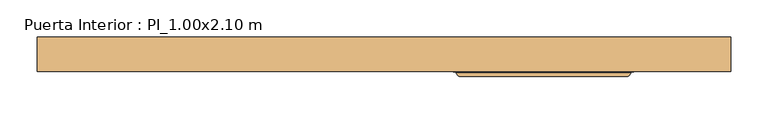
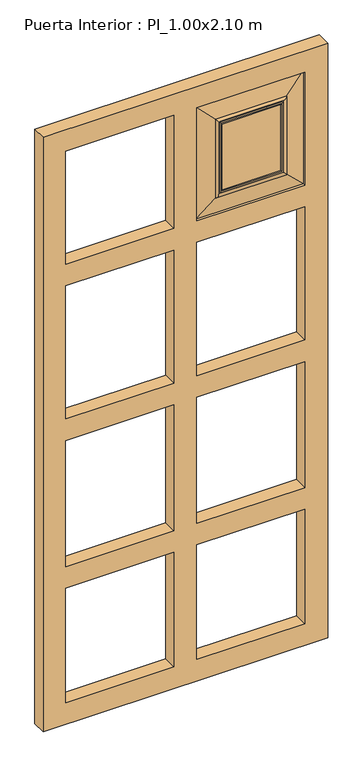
"""IFC4 building model written with IfcOpenShell, lengths in millimetres: door geometry, Puerta Interior : PI_1.00x2.10 m."""

from ifc_helpers import new_model, si_unit, frame, origin, place, context, project, spatial, polyline, ellipse_curve, outline, extrude, source, transform, mapped, element, save
from ifc_brep_helpers import plane_surface, cylinder_surface, advanced_brep


def puerta_interior_pi_1_00x2_10_m_50af7067(model_context):
    return source(origin(), model_context, "Body", "SolidModel", [
        advanced_brep(
        [(117.5, -5.0, 1912.0), (117.5, -5.0, 1680.0087316), (117.5, 0.0, 1680.0087316), (117.5, 0.0, 1912.0), (37.5, 10.0, 1992.0), (37.5, 35.0, 1992.0), (37.5, 35.0, 1600.0087316), (37.5, 10.0, 1600.0087316), (97.5, 0.0, 1660.0087316), (97.5, 0.0, 1932.0), (107.5, 0.0, 1670.0087316), (107.5, 0.0, 1922.0), (112.5, -5.0, 1917.0), (112.5, 0.0, 1917.0), (112.5, 0.0, 1675.0087316), (112.5, -5.0, 1675.0087316), (312.0, -5.0, 1680.0087316), (312.0, 0.0, 1680.0087316), (392.0, 35.0, 1600.0087316), (392.0, 10.0, 1600.0087316), (332.0, 0.0, 1660.0087316), (322.0, 0.0, 1670.0087316), (317.0, 0.0, 1675.0087316), (317.0, -5.0, 1675.0087316), (312.0, -5.0, 1912.0), (312.0, 0.0, 1912.0), (392.0, 35.0, 1992.0), (392.0, 10.0, 1992.0), (332.0, 0.0, 1932.0), (322.0, 0.0, 1922.0), (317.0, 0.0, 1917.0), (317.0, -5.0, 1917.0)],
        [
            (0, 1),
            (1, 2),
            (2, 3),
            (3, 0),
            (4, 5),
            (5, 6),
            (6, 7),
            (7, 4),
            (7, 8),
            (8, 9),
            (9, 4),
            (8, 10, ellipse_curve(frame((102.5, 0.0, 1665.0087316), z_axis=(-0.7071067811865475, 0.0, 0.7071067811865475), x_axis=(0.7071067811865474, 0.0, 0.7071067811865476)), 7.0710678, 5.0)),
            (10, 11),
            (11, 9, ellipse_curve(frame((102.5, 0.0, 1927.0), z_axis=(-0.7071067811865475, 0.0, -0.7071067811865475), x_axis=(-0.7071067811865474, 0.0, 0.7071067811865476)), 7.0710678, 5.0)),
            (12, 13),
            (13, 14),
            (14, 15),
            (15, 12),
            (1, 16),
            (16, 17),
            (17, 2),
            (6, 18),
            (18, 19),
            (19, 7),
            (19, 20),
            (20, 8),
            (20, 21, ellipse_curve(frame((327.0, 0.0, 1665.0087316), z_axis=(-0.7071067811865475, 0.0, -0.7071067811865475), x_axis=(-0.7071067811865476, 0.0, 0.7071067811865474)), 7.0710678, 5.0)),
            (21, 10),
            (14, 22),
            (22, 23),
            (23, 15),
            (16, 24),
            (24, 25),
            (25, 17),
            (18, 26),
            (26, 27),
            (27, 19),
            (27, 28),
            (28, 20),
            (28, 29, ellipse_curve(frame((327.0, 0.0, 1927.0), z_axis=(0.7071067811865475, 0.0, -0.7071067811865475), x_axis=(-0.7071067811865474, 0.0, -0.7071067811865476)), 7.0710678, 5.0)),
            (29, 21),
            (22, 30),
            (30, 31),
            (31, 23),
            (24, 0),
            (3, 25),
            (5, 26),
            (4, 27),
            (9, 28),
            (11, 29),
            (13, 30),
            (12, 31),
        ],
        [
            plane_surface(frame((117.5, -5.0, 1912.0), z_axis=(1.0, 0.0, 0.0), x_axis=(0.0, 0.0, -1.0))),
            plane_surface(frame((37.5, 35.0, 1992.0), z_axis=(-1.0, 0.0, 0.0), x_axis=(0.0, 0.0, -1.0))),
            plane_surface(frame((37.5, 10.0, 1992.0), z_axis=(-0.1643989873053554, -0.9863939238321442, 0.0), x_axis=(0.0, 0.0, -1.0))),
            cylinder_surface(frame((102.5, 0.0, 1992.0), z_axis=(0.0, 0.0, 1.0), x_axis=(0.0, 1.0, 0.0)), 5.0),
            plane_surface(frame((112.5, 0.0, 1917.0), z_axis=(-1.0, 0.0, 0.0), x_axis=(0.0, 0.0, -1.0))),
            plane_surface(frame((117.5, -5.0, 1680.0087316), z_axis=(0.0, 0.0, 1.0), x_axis=(1.0, 0.0, 0.0))),
            plane_surface(frame((37.5, 35.0, 1600.0087316), z_axis=(0.0, 0.0, -1.0), x_axis=(1.0, 0.0, 0.0))),
            plane_surface(frame((37.5, 10.0, 1600.0087316), z_axis=(0.0, -0.9863939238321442, -0.1643989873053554), x_axis=(1.0, 0.0, 0.0))),
            cylinder_surface(frame((37.5, 0.0, 1665.0087316), z_axis=(-1.0, 0.0, 0.0), x_axis=(0.0, 1.0, 0.0)), 5.0),
            plane_surface(frame((112.5, 0.0, 1675.0087316), z_axis=(0.0, 0.0, -1.0), x_axis=(1.0, 0.0, 0.0))),
            plane_surface(frame((312.0, -5.0, 1680.0087316), z_axis=(-1.0, 0.0, 0.0), x_axis=(0.0, 0.0, 1.0))),
            plane_surface(frame((392.0, 35.0, 1600.0087316), z_axis=(1.0, 0.0, 0.0), x_axis=(0.0, 0.0, 1.0))),
            plane_surface(frame((392.0, 10.0, 1600.0087316), z_axis=(0.1643989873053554, -0.9863939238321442, 0.0), x_axis=(0.0, 0.0, 1.0))),
            cylinder_surface(frame((327.0, 0.0, 1600.0087316), z_axis=(0.0, 0.0, -1.0), x_axis=(0.0, 1.0, 0.0)), 5.0),
            plane_surface(frame((317.0, 0.0, 1675.0087316), z_axis=(1.0, 0.0, 0.0), x_axis=(0.0, 0.0, 1.0))),
            plane_surface(frame((312.0, -5.0, 1912.0), z_axis=(0.0, 0.0, -1.0), x_axis=(-1.0, 0.0, 0.0))),
            plane_surface(frame((312.0, 35.0, 1912.0), z_axis=(0.0, 1.0, 0.0), x_axis=(-1.0, 0.0, 0.0))),
            plane_surface(frame((392.0, 35.0, 1992.0), z_axis=(0.0, 0.0, 1.0), x_axis=(-1.0, 0.0, 0.0))),
            plane_surface(frame((392.0, 10.0, 1992.0), z_axis=(0.0, -0.9863939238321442, 0.1643989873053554), x_axis=(-1.0, 0.0, 0.0))),
            cylinder_surface(frame((392.0, 0.0, 1927.0), z_axis=(1.0, 0.0, 0.0), x_axis=(0.0, 1.0, 0.0)), 5.0),
            plane_surface(frame((322.0, 0.0, 1922.0), z_axis=(0.0, -1.0, 0.0), x_axis=(-1.0, 0.0, 0.0))),
            plane_surface(frame((317.0, 0.0, 1917.0), z_axis=(0.0, 0.0, 1.0), x_axis=(-1.0, 0.0, 0.0))),
            plane_surface(frame((317.0, -5.0, 1917.0), z_axis=(0.0, -1.0, 0.0), x_axis=(-1.0, 0.0, 0.0))),
            plane_surface(frame((117.5, 0.0, 1912.0), z_axis=(0.0, -1.0, 0.0), x_axis=(0.0, 0.0, -1.0))),
        ],
        [
            (0, [[1, 2, 3, 4]]),
            (1, [[5, 6, 7, 8]]),
            (2, [[-8, 9, 10, 11]]),
            (3, [[-10, 12, 13, 14]]),
            (4, [[15, 16, 17, 18]]),
            (5, [[19, 20, 21, -2]]),
            (6, [[-7, 22, 23, 24]]),
            (7, [[-9, -24, 25, 26]]),
            (8, [[-12, -26, 27, 28]]),
            (9, [[-17, 29, 30, 31]]),
            (10, [[32, 33, 34, -20]]),
            (11, [[-23, 35, 36, 37]]),
            (12, [[-25, -37, 38, 39]]),
            (13, [[-27, -39, 40, 41]]),
            (14, [[-30, 42, 43, 44]]),
            (15, [[45, -4, 46, -33]]),
            (16, [[-6, 47, -35, -22]]),
            (17, [[-5, 48, -36, -47]]),
            (18, [[-11, 49, -38, -48]]),
            (19, [[-14, 50, -40, -49]]),
            (20, [[-13, -28, -41, -50], [-16, 51, -42, -29]]),
            (21, [[-15, 52, -43, -51]]),
            (22, [[-18, -31, -44, -52], [-1, -45, -32, -19]]),
            (23, [[-3, -21, -34, -46]]),
        ],
    ),
        extrude(outline(polyline([(2.5, 467.0), (2067.0, 467.0), (2067.0, -467.0), (2.5, -467.0), (2.5, 467.0)]), holes=[polyline([(1062.5174632, 392.0), (1062.5174632, 37.5), (1525.0087316, 37.5), (1525.0087316, 392.0), (1062.5174632, 392.0)]), polyline([(1062.5174632, -37.5), (1062.5174632, -392.0), (1525.0087316, -392.0), (1525.0087316, -37.5), (1062.5174632, -37.5)]), polyline([(987.5174632, 37.5), (987.5174632, 392.0), (550.0087316, 392.0), (550.0087316, 37.5), (987.5174632, 37.5)]), polyline([(475.0087316, -37.5), (77.5, -37.5), (77.5, -392.0), (475.0087316, -392.0), (475.0087316, -37.5)]), polyline([(550.0087316, -37.5), (550.0087316, -392.0), (987.5174632, -392.0), (987.5174632, -37.5), (550.0087316, -37.5)]), polyline([(475.0087316, 37.5), (475.0087316, 392.0), (77.5, 392.0), (77.5, 37.5), (475.0087316, 37.5)]), polyline([(1600.0087316, 37.5), (1992.0, 37.5), (1992.0, 392.0), (1600.0087316, 392.0), (1600.0087316, 37.5)]), polyline([(1600.0087316, -37.5), (1600.0087316, -392.0), (1992.0, -392.0), (1992.0, -37.5), (1600.0087316, -37.5)])]), frame((0.0, 1.803125, 0.0), z_axis=(0.0, 1.0, 0.0), x_axis=(0.0, 0.0, 1.0)), (0.0, 0.0, 1.0), 46.4),
    ])


if __name__ == "__main__":
    model = new_model("IFC4")
    model_context = context("Model", 3, world=origin())
    ifc_project = project(units=[si_unit("LENGTHUNIT", "METRE", prefix="MILLI")], contexts=[model_context])
    site = spatial("IfcSite", under=ifc_project)
    building = spatial("IfcBuilding", under=site)
    placement = place(None, origin())
    puerta_interior_pi_1_00x2_10_m_shape = puerta_interior_pi_1_00x2_10_m_50af7067(model_context)
    element("IfcDoor", 1, ObjectType="Puerta Interior : PI_1.00x2.10 m", at=placement, inside=building, context=model_context, shape_type="MappedRepresentation", body=[
        mapped(puerta_interior_pi_1_00x2_10_m_shape, transform((0.0, 0.0, 0.0), x_axis=(1.0, 0.0, 0.0), y_axis=(0.0, 1.0, 0.0), z_axis=(0.0, 0.0, 1.0))),
    ])
    save(model, "model.ifc")
